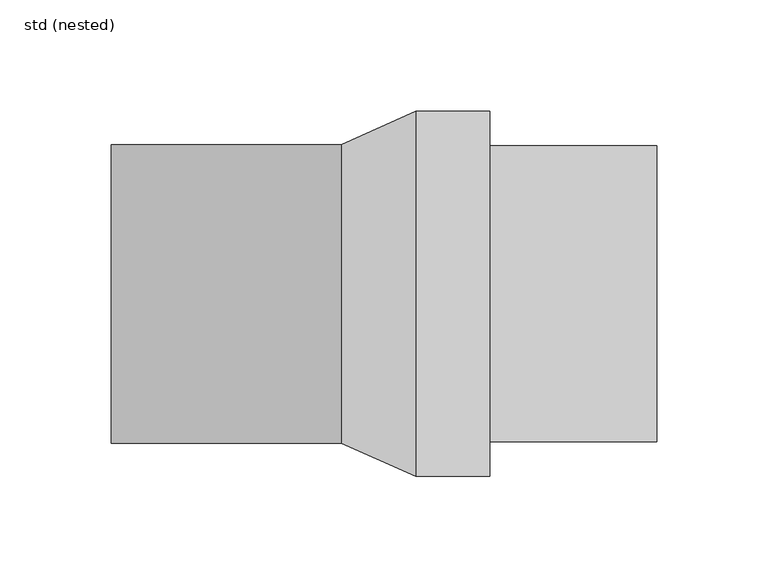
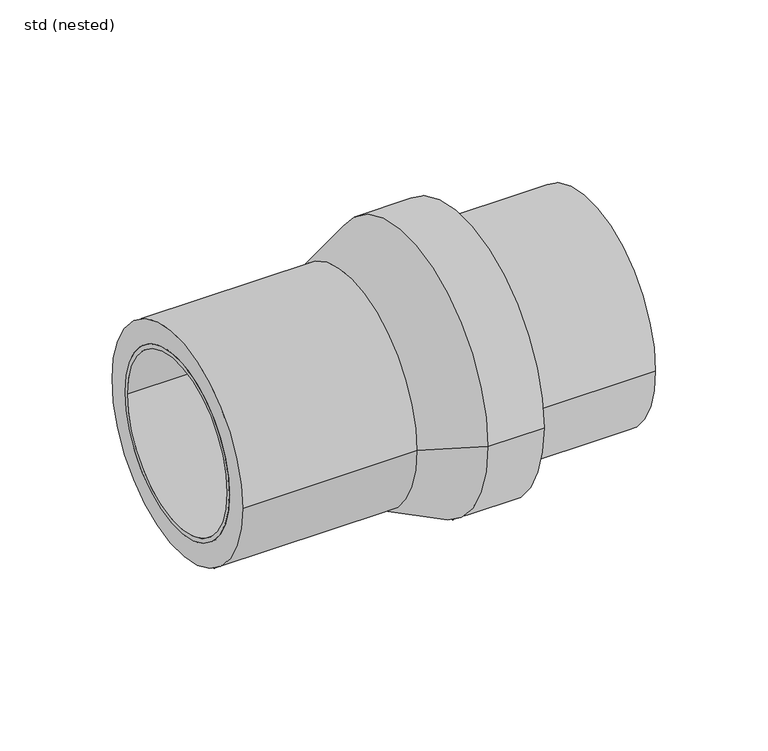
"""IFC4 building model written with IfcOpenShell, lengths in millimetres: pipe fitting geometry, ZZZ_do not use_PIF_ST_WPB_GM-X compound pipe reducer_ACO : std (nested)."""

from ifc_helpers import new_model, si_unit, point, frame, origin, origin_2d, place, context, project, spatial, polyline, circle_curve, trimmed, segment, composite_curve, outline, extrude, source, transform, mapped, element, save
from ifc_brep_helpers import plane_surface, cylinder_surface, revolved_surface, advanced_brep


def std_nested_33cd05bf(model_context):
    return source(origin(), model_context, "Body", "SolidModel", [
        advanced_brep(
        [(-236.7, -59.0, 0.0), (-236.7, 59.0, 0.0), (-208.0, 59.0, 0.0), (-208.0, -59.0, 0.0), (-245.0, 53.5, 0.0), (-245.0, -53.5, 0.0), (-245.0, -51.0, 0.0), (-245.0, 51.0, 0.0), (-175.0, 53.5, 0.0), (-175.0, -53.5, 0.0), (-175.0, 51.0, 0.0), (-175.0, -51.0, 0.0), (-236.7, 53.5, 0.0), (-236.7, -53.5, 0.0), (-208.0, -53.5, 0.0), (-208.0, 53.5, 0.0)],
        [
            (0, 1, circle_curve(frame((-236.7, 0.0, 0.0), z_axis=(1.0, 0.0, 0.0), x_axis=(0.0, -1.0, 0.0)), 59.0)),
            (1, 2),
            (2, 3, circle_curve(frame((-208.0, 0.0, 0.0), z_axis=(-1.0, 0.0, 0.0), x_axis=(0.0, -1.0, 0.0)), 59.0)),
            (3, 0),
            (1, 0, circle_curve(frame((-236.7, 0.0, 0.0), z_axis=(1.0, 0.0, 0.0), x_axis=(0.0, -1.0, 0.0)), 59.0)),
            (3, 2, circle_curve(frame((-208.0, 0.0, 0.0), z_axis=(-1.0, 0.0, 0.0), x_axis=(0.0, -1.0, 0.0)), 59.0)),
            (4, 5, circle_curve(frame((-245.0, 0.0, 0.0), z_axis=(-1.0, 0.0, 0.0), x_axis=(0.0, -1.0, 0.0)), 53.5)),
            (5, 4, circle_curve(frame((-245.0, 0.0, 0.0), z_axis=(-1.0, 0.0, 0.0), x_axis=(0.0, -1.0, 0.0)), 53.5)),
            (6, 7, circle_curve(frame((-245.0, 0.0, 0.0), z_axis=(1.0, 0.0, 0.0), x_axis=(0.0, -1.0, 0.0)), 51.0)),
            (7, 6, circle_curve(frame((-245.0, 0.0, 0.0), z_axis=(1.0, 0.0, 0.0), x_axis=(0.0, -1.0, 0.0)), 51.0)),
            (8, 9, circle_curve(frame((-175.0, 0.0, 0.0), z_axis=(1.0, 0.0, 0.0), x_axis=(0.0, -1.0, 0.0)), 53.5)),
            (9, 8, circle_curve(frame((-175.0, 0.0, 0.0), z_axis=(1.0, 0.0, 0.0), x_axis=(0.0, -1.0, 0.0)), 53.5)),
            (10, 11, circle_curve(frame((-175.0, 0.0, 0.0), z_axis=(-1.0, 0.0, 0.0), x_axis=(0.0, -1.0, 0.0)), 51.0)),
            (11, 10, circle_curve(frame((-175.0, 0.0, 0.0), z_axis=(-1.0, 0.0, 0.0), x_axis=(0.0, -1.0, 0.0)), 51.0)),
            (4, 12),
            (12, 13, circle_curve(frame((-236.7, 0.0, 0.0), z_axis=(-1.0, 0.0, 0.0), x_axis=(0.0, -1.0, 0.0)), 53.5)),
            (13, 5),
            (9, 14),
            (14, 15, circle_curve(frame((-208.0, 0.0, 0.0), z_axis=(1.0, 0.0, 0.0), x_axis=(0.0, -1.0, 0.0)), 53.5)),
            (15, 8),
            (13, 12, circle_curve(frame((-236.7, 0.0, 0.0), z_axis=(-1.0, 0.0, 0.0), x_axis=(0.0, -1.0, 0.0)), 53.5)),
            (15, 14, circle_curve(frame((-208.0, 0.0, 0.0), z_axis=(1.0, 0.0, 0.0), x_axis=(0.0, -1.0, 0.0)), 53.5)),
            (6, 11),
            (10, 7),
        ],
        [
            cylinder_surface(frame((-208.0, 0.0, 0.0), z_axis=(-1.0, 0.0, 0.0), x_axis=(0.0, -1.0, 0.0)), 59.0),
            plane_surface(frame((-245.0, -53.5, 0.0), z_axis=(-1.0, 0.0, 0.0), x_axis=(0.0, 0.0, 1.0))),
            plane_surface(frame((-175.0, -53.5, 0.0), z_axis=(1.0, 0.0, 0.0), x_axis=(0.0, 0.0, -1.0))),
            cylinder_surface(frame((-175.0, 0.0, 0.0), z_axis=(-1.0, 0.0, 0.0), x_axis=(0.0, -1.0, 0.0)), 53.5),
            revolved_surface(polyline([(-245.0, -51.0, 0.0), (-175.0, -51.0, 0.0)]), (-175.0, 0.0, 0.0), (-1.0, 0.0, 0.0)),
            plane_surface(frame((-236.7, -59.0, 0.0), z_axis=(-1.0, 0.0, 0.0), x_axis=(0.0, 0.0, 1.0))),
            plane_surface(frame((-208.0, -59.0, 0.0), z_axis=(1.0, 0.0, 0.0), x_axis=(0.0, 0.0, -1.0))),
        ],
        [
            (0, [[1, 2, 3, 4]]),
            (0, [[5, -4, 6, -2]]),
            (1, [[7, 8], [9, 10]]),
            (2, [[11, 12], [13, 14]]),
            (3, [[-7, 15, 16, 17]]),
            (3, [[-12, 18, 19, 20]]),
            (3, [[-8, -17, 21, -15]]),
            (3, [[-11, -20, 22, -18]]),
            (4, [[23, -13, 24, -9]]),
            (4, [[-23, -10, -24, -14]]),
            (5, [[-1, -5], [-16, -21]]),
            (6, [[-6, -3], [-19, -22]]),
        ],
    ),
        advanced_brep(
        [(-245.0, -67.0, 0.0), (-245.0, 67.0, 0.0), (-245.0, 53.5, 0.0), (-245.0, -53.5, 0.0), (-141.6666667, -67.0, 0.0), (-141.6666667, 67.0, 0.0), (-175.0, -53.5, 0.0), (-175.0, 53.5, 0.0), (-108.3333333, 82.0, 0.0), (-108.3333333, -82.0, 0.0), (-75.0, 82.0, 0.0), (-75.0, -82.0, 0.0)],
        [
            (0, 1, circle_curve(frame((-245.0, 0.0, 0.0), z_axis=(-1.0, 0.0, 0.0), x_axis=(0.0, 1.0, 0.0)), 67.0)),
            (1, 0, circle_curve(frame((-245.0, 0.0, 0.0), z_axis=(-1.0, 0.0, 0.0), x_axis=(0.0, 1.0, 0.0)), 67.0)),
            (2, 3, circle_curve(frame((-245.0, 0.0, 0.0), z_axis=(1.0, 0.0, 0.0), x_axis=(0.0, 1.0, 0.0)), 53.5)),
            (3, 2, circle_curve(frame((-245.0, 0.0, 0.0), z_axis=(1.0, 0.0, 0.0), x_axis=(0.0, 1.0, 0.0)), 53.5)),
            (0, 4),
            (4, 5, circle_curve(frame((-141.6666667, 0.0, 0.0), z_axis=(-1.0, 0.0, 0.0), x_axis=(0.0, 1.0, 0.0)), 67.0)),
            (5, 1),
            (5, 4, circle_curve(frame((-141.6666667, 0.0, 0.0), z_axis=(-1.0, 0.0, 0.0), x_axis=(0.0, 1.0, 0.0)), 67.0)),
            (6, 7, circle_curve(frame((-175.0, 0.0, 0.0), z_axis=(-1.0, 0.0, 0.0), x_axis=(0.0, 1.0, 0.0)), 53.5)),
            (7, 6, circle_curve(frame((-175.0, 0.0, 0.0), z_axis=(-1.0, 0.0, 0.0), x_axis=(0.0, 1.0, 0.0)), 53.5)),
            (6, 3),
            (2, 7),
            (5, 8),
            (8, 9, circle_curve(frame((-108.3333333, 0.0, 0.0), z_axis=(-1.0, 0.0, 0.0), x_axis=(0.0, -1.0, 0.0)), 82.0)),
            (9, 4),
            (9, 8, circle_curve(frame((-108.3333333, 0.0, 0.0), z_axis=(-1.0, 0.0, 0.0), x_axis=(0.0, 1.0, 0.0)), 82.0)),
            (10, 11, circle_curve(frame((-75.0, 0.0, 0.0), z_axis=(1.0, 0.0, 0.0), x_axis=(0.0, -1.0, 0.0)), 82.0)),
            (11, 10, circle_curve(frame((-75.0, 0.0, 0.0), z_axis=(1.0, 0.0, 0.0), x_axis=(0.0, -1.0, 0.0)), 82.0)),
            (10, 8),
            (9, 11),
        ],
        [
            plane_surface(frame((-245.0, 67.0, 0.0), z_axis=(-1.0, 0.0, 0.0), x_axis=(0.0, 0.0, -1.0))),
            cylinder_surface(frame((-141.6666667, 0.0, 0.0), z_axis=(-1.0, 0.0, 0.0), x_axis=(0.0, 1.0, 0.0)), 67.0),
            plane_surface(frame((-175.0, 53.5, 0.0), z_axis=(-1.0, 0.0, 0.0), x_axis=(0.0, 0.0, 1.0))),
            revolved_surface(polyline([(-245.0, 53.5, 0.0), (-175.0, 53.5, 0.0)]), (-175.0, 0.0, 0.0), (-1.0, 0.0, 0.0)),
            revolved_surface(polyline([(-141.6666667, 66.99999997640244, 0.0), (-108.33333329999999, 82.0, 0.0)]), (-290.5555556, 0.0, 0.0), (1.0, 0.0, 0.0)),
            plane_surface(frame((-75.0, -82.0, 0.0), z_axis=(1.0, 0.0, 0.0), x_axis=(0.0, 0.0, -1.0))),
            cylinder_surface(frame((-108.3333333, 0.0, 0.0), z_axis=(1.0, 0.0, 0.0), x_axis=(0.0, -1.0, 0.0)), 82.0),
        ],
        [
            (0, [[1, 2], [3, 4]]),
            (1, [[-1, 5, 6, 7]]),
            (1, [[-2, -7, 8, -5]]),
            (2, [[9, 10]]),
            (3, [[-9, 11, -3, 12]]),
            (3, [[-10, -12, -4, -11]]),
            (4, [[13, 14, 15, -8]]),
            (4, [[-13, -6, -15, 16]]),
            (5, [[17, 18]]),
            (6, [[-17, 19, -16, 20]]),
            (6, [[-18, -20, -14, -19]]),
        ],
    ),
        extrude(outline(composite_curve([segment(trimmed(circle_curve(origin_2d(), 66.5), [point((66.5, 0.0))], [point((-66.5, 0.0))], False, "CARTESIAN"), True, "CONTINUOUS"), segment(trimmed(circle_curve(origin_2d(), 66.5), [point((-66.5, 0.0))], [point((66.5, 0.0))], False, "CARTESIAN"), True, "CONTINUOUS")], self_intersect=False)), frame((-75.0, 0.0, 0.0), z_axis=(1.0, 0.0, 0.0), x_axis=(0.0, 1.0, 0.0)), (0.0, 0.0, 1.0), 75.0),
    ])


if __name__ == "__main__":
    model = new_model("IFC4")
    model_context = context("Model", 3, world=origin())
    ifc_project = project(units=[si_unit("LENGTHUNIT", "METRE", prefix="MILLI")], contexts=[model_context])
    site = spatial("IfcSite", under=ifc_project)
    building = spatial("IfcBuilding", under=site)
    placement = place(None, origin())
    std_nested_shape = std_nested_33cd05bf(model_context)
    element("IfcPipeFitting", 1, ObjectType="ZZZ_do not use_PIF_ST_WPB_GM-X compound pipe reducer_ACO : std (nested)", at=placement, inside=building, context=model_context, shape_type="MappedRepresentation", body=[
        mapped(std_nested_shape, transform((0.0, 0.0, 0.0), x_axis=(1.0, 0.0, 0.0), y_axis=(0.0, 1.0, 0.0), z_axis=(0.0, 0.0, 1.0))),
    ])
    save(model, "model.ifc")
